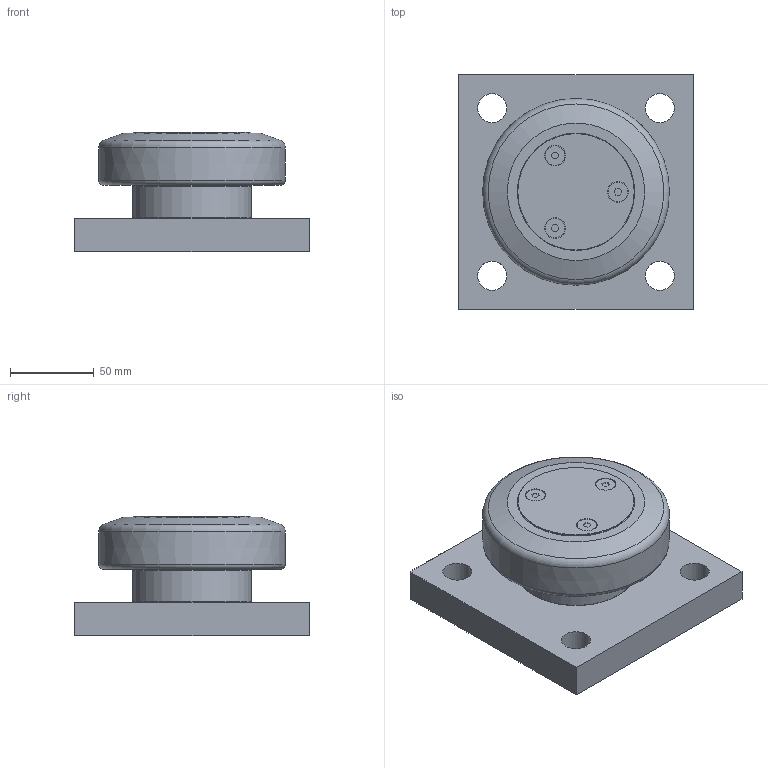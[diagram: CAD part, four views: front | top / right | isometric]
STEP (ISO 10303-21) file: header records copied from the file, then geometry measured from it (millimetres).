
FILE_DESCRIPTION(/* description */ ('-','CAx-IF Rec.Pracs.---Representation and Presentation of Product Manufacturing Information (PMI)---4.0---2014-10-13'),/* implementation_level */ '2;1');
FILE_NAME(/* name */ 'c:\temp\6ed8bf8f-1845-41eb-82c5-0c72aae15a7f\989fdb88-4549-4c98-93a0-15d1a4cae43b.stp',/* time_stamp */ '2020-04-01T16:50:06+02:00',/* author */ ('-'),/* organization */ ('NTI CADcenter A/S'),/* preprocessor_version */ 'ST-DEVELOPER v18',/* originating_system */ 'Autodesk Inventor 2020',/* authorisation */ '-');
FILE_SCHEMA (('AP242_MANAGED_MODEL_BASED_3D_ENGINEERING_MIM_LF { 1 0 10303 442 1 1 4 }'));
Length unit declared in the file: millimetre
Products named in the file (1): XTR 110.0400 BQ1000_Kontur
Bounding box: 140 x 140 x 71.5 mm (x, y, z)
Volume: 742022.5 mm3; surface area: 77890.7 mm2
Topology: 1 solids, 1 shells, 57 faces, 137 edges, 95 vertices
Faces by surface type: plane 37, cylinder 13, cone 4, torus 2, bspline 1
Full cylindrical faces by diameter (mm): 11.7 x3, 12.4 x3, 17.294 x4, 70 x1, 70.5 x1, 71 x1
Entity records: 1772 total; most frequent: CARTESIAN_POINT 316, DIRECTION 305, ORIENTED_EDGE 274, EDGE_CURVE 137, AXIS2_PLACEMENT_3D 111, VERTEX_POINT 95, LINE 83, VECTOR 83
